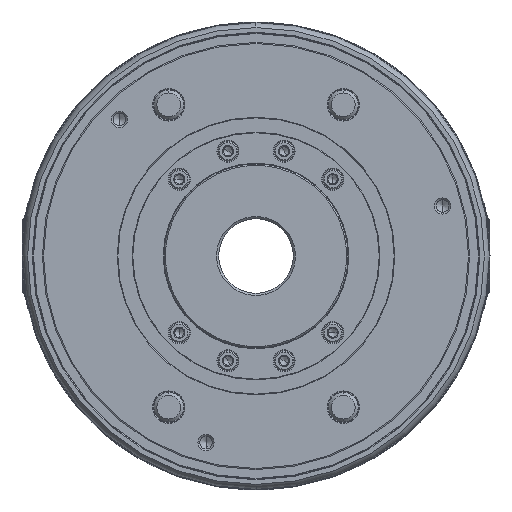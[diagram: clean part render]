
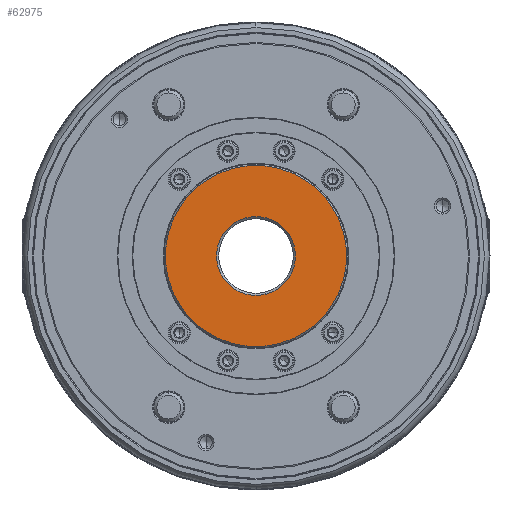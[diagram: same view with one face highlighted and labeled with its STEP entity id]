
A CAD part, left-side view. The second image highlights one B-rep face of the part: STEP entity #62975.
In plain terms, the highlighted planar face has unit normal (-1, 0, 0).
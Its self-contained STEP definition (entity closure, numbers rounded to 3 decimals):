
#42 = CARTESIAN_POINT ( 'NONE',  ( -30., 0., 0. ) ) ;
#405 = CARTESIAN_POINT ( 'NONE',  ( -30., 0., 0. ) ) ;
#3034 = EDGE_CURVE ( 'NONE', #18558, #55147, #69358, .T. ) ;
#5461 = CARTESIAN_POINT ( 'NONE',  ( -30., 0., -61. ) ) ;
#5983 = DIRECTION ( 'NONE',  ( 0., 0., -1. ) ) ;
#9509 = ORIENTED_EDGE ( 'NONE', *, *, #19832, .T. ) ;
#15406 = DIRECTION ( 'NONE',  ( 1., 0., 0. ) ) ;
#16469 = VERTEX_POINT ( 'NONE', #78359 ) ;
#18266 = EDGE_LOOP ( 'NONE', ( #9509, #89860 ) ) ;
#18558 = VERTEX_POINT ( 'NONE', #60928 ) ;
#19832 = EDGE_CURVE ( 'NONE', #16469, #63705, #88906, .T. ) ;
#21431 = CARTESIAN_POINT ( 'NONE',  ( -30., 0., 0. ) ) ;
#23306 = AXIS2_PLACEMENT_3D ( 'NONE', #56068, #86523, #41578 ) ;
#30724 = AXIS2_PLACEMENT_3D ( 'NONE', #42, #75963, #38982 ) ;
#38982 = DIRECTION ( 'NONE',  ( 0., 0., -1. ) ) ;
#39089 = AXIS2_PLACEMENT_3D ( 'NONE', #47306, #52931, #45475 ) ;
#41578 = DIRECTION ( 'NONE',  ( 0., 0., 1. ) ) ;
#45475 = DIRECTION ( 'NONE',  ( 0., 0., -1. ) ) ;
#47302 = AXIS2_PLACEMENT_3D ( 'NONE', #21431, #51896, #5983 ) ;
#47306 = CARTESIAN_POINT ( 'NONE',  ( -30., 0., 0. ) ) ;
#49085 = FACE_OUTER_BOUND ( 'NONE', #60652, .T. ) ;
#51227 = ORIENTED_EDGE ( 'NONE', *, *, #3034, .F. ) ;
#51896 = DIRECTION ( 'NONE',  ( 1., 0., 0. ) ) ;
#52931 = DIRECTION ( 'NONE',  ( 1., 0., 0. ) ) ;
#55147 = VERTEX_POINT ( 'NONE', #5461 ) ;
#56068 = CARTESIAN_POINT ( 'NONE',  ( -30., 26.6, 0. ) ) ;
#58819 = EDGE_CURVE ( 'NONE', #63705, #16469, #68980, .T. ) ;
#60652 = EDGE_LOOP ( 'NONE', ( #98213, #51227 ) ) ;
#60928 = CARTESIAN_POINT ( 'NONE',  ( -30., 0., 61. ) ) ;
#61603 = CIRCLE ( 'NONE', #47302, 61. ) ;
#62069 = PLANE ( 'NONE',  #23306 ) ;
#62975 = ADVANCED_FACE ( 'NONE', ( #78544, #49085 ), #62069, .T. ) ;
#63705 = VERTEX_POINT ( 'NONE', #76352 ) ;
#68980 = CIRCLE ( 'NONE', #30724, 26.6 ) ;
#69358 = CIRCLE ( 'NONE', #39089, 61. ) ;
#74704 = EDGE_CURVE ( 'NONE', #55147, #18558, #61603, .T. ) ;
#75963 = DIRECTION ( 'NONE',  ( 1., 0., 0. ) ) ;
#76352 = CARTESIAN_POINT ( 'NONE',  ( -30., 0., -26.6 ) ) ;
#78359 = CARTESIAN_POINT ( 'NONE',  ( -30., 0., 26.6 ) ) ;
#78544 = FACE_BOUND ( 'NONE', #18266, .T. ) ;
#86523 = DIRECTION ( 'NONE',  ( -1., 0., 0. ) ) ;
#88906 = CIRCLE ( 'NONE', #93740, 26.6 ) ;
#89860 = ORIENTED_EDGE ( 'NONE', *, *, #58819, .T. ) ;
#92267 = DIRECTION ( 'NONE',  ( 0., 0., -1. ) ) ;
#93740 = AXIS2_PLACEMENT_3D ( 'NONE', #405, #15406, #92267 ) ;
#98213 = ORIENTED_EDGE ( 'NONE', *, *, #74704, .F. ) ;
